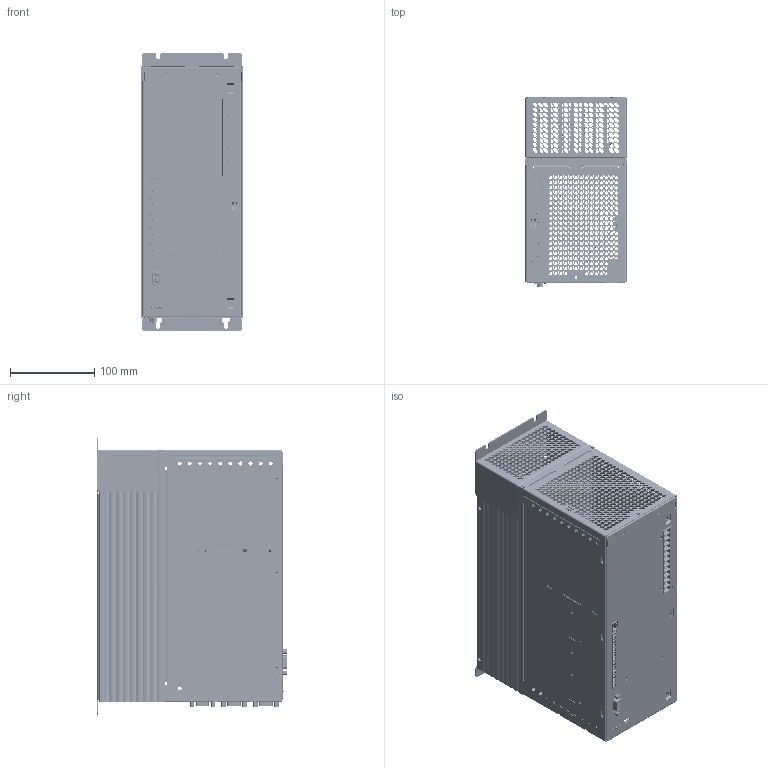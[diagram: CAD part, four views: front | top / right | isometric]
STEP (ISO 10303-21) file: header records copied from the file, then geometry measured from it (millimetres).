
FILE_DESCRIPTION (( 'STEP AP214' ), '1' );
FILE_NAME ('CDD-BG4_step.STEP', '2010-09-06T10:48:44', ( 'Bereich' ), ( 'LTi DRiVES GmbH' ), 'SwSTEP 2.0', 'SolidWorks 2008', '' );
FILE_SCHEMA (( 'AUTOMOTIVE_DESIGN' ));
Length unit declared in the file: millimetre
Products named in the file (28): mc_1_5-10-g-3_81_step_Standard; DISTANZBOLZEN 107749_step_Standard; TEST_step_Standard; D_SUB_9POLIG_108581_step_Standard; pc_4-12-g-7.62_step_Standard; Lüfterkasten_step_Standard; MSTBA_2.5-2-G1_step_Standard; MSTBA_2.5-2-G(1)1_step_Standard; D_SUB_15POLIG_step_Standard; polig-Stift_step_Standard; 0894.500.0_step_Standard; 0894.K黨lk鰎per_step_Standard; CDD-BG4_step; 1001.577.0_step; 0894.Seitenteil-rechts_step_Standard; 0894.Seitenteil-links_step_Standard; Steuerprint CDB-1_step; Self-clinching Nut_PMM_PEM S-M4-0 ZI--N; 0894.503.0_step_Standard; LED_3FACH_108455-1_step_Standard; LED_3FACH_108455_step; Steuerprint_step_Standard; D-SUB 9polig 106256_step; Drucktaster-105902-1_step_Standard; Drucktaster-105902_step; Steuerprint CDB-1_step_Standard; 0931.500.0-1_step_Standard; D-SUB 9polig 106256-1_step_Standard
Assembly tree (38 placements, depth 4):
  CDD-BG4_step
    DISTANZBOLZEN 107749_step_Standard  x8
    0894.500.0_step_Standard
    0894.K黨lk鰎per_step_Standard
    D_SUB_9POLIG_108581_step_Standard
      TEST_step_Standard
    0894.Seitenteil-links_step_Standard
    1001.577.0_step
      Self-clinching Nut_PMM_PEM S-M4-0 ZI--N  x6
      0894.503.0_step_Standard
    Steuerprint CDB-1_step
      Drucktaster-105902_step
        Drucktaster-105902-1_step_Standard
      mc_1_5-10-g-3_81_step_Standard  x2
      Steuerprint_step_Standard
      polig-Stift_step_Standard
      D-SUB 9polig 106256_step
        D-SUB 9polig 106256-1_step_Standard
      LED_3FACH_108455_step
        LED_3FACH_108455-1_step_Standard
      MSTBA_2.5-2-G(1)1_step_Standard
        MSTBA_2.5-2-G1_step_Standard
      D_SUB_15POLIG_step_Standard
    pc_4-12-g-7.62_step_Standard
    Lüfterkasten_step_Standard
    0894.Seitenteil-rechts_step_Standard
  Steuerprint CDB-1_step_Standard
  0931.500.0-1_step_Standard
Bounding box: 120 x 225.1 x 330 mm (x, y, z)
Volume: 1216824.4 mm3; surface area: 910432.8 mm2
Topology: 31 solids, 31 shells, 7595 faces, 20525 edges, 13369 vertices
Faces by surface type: plane 3812, cylinder 1875, bspline 1699, cone 164, torus 27, sphere 18
Entity records: 227506 total; most frequent: CARTESIAN_POINT 58309, ORIENTED_EDGE 34014, DIRECTION 26322, EDGE_CURVE 17007, VERTEX_POINT 11123, LINE 9958, VECTOR 9958, EDGE_LOOP 8392
